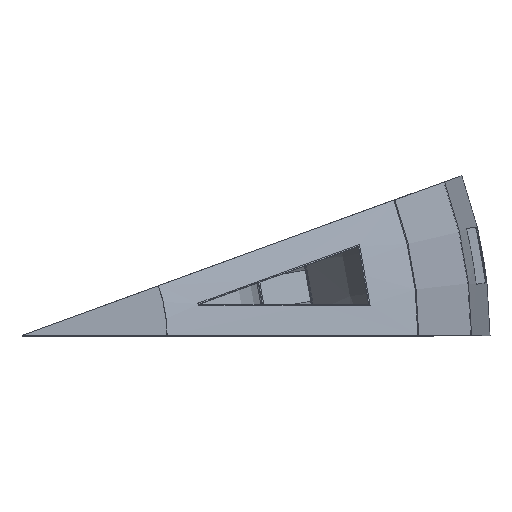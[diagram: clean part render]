
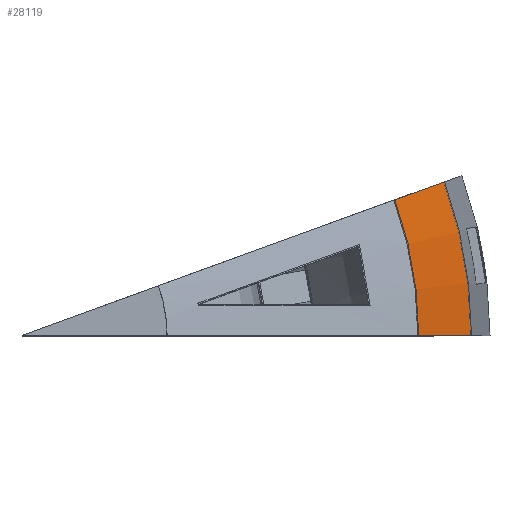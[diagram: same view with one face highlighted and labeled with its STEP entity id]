
A CAD part, top view. The second image highlights one B-rep face of the part: STEP entity #28119.
In plain terms, the highlighted conical face has half-angle 31.234 degrees and reference radius 17911.4 mm.
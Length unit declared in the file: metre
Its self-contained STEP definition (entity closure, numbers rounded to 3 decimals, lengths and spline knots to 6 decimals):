
#27114 = CONICAL_SURFACE('',#27115,15.701888,1.262);
#27115 = AXIS2_PLACEMENT_3D('',#27116,#27117,#27118);
#27116 = CARTESIAN_POINT('',(0.,0.,7.456557));
#27117 = DIRECTION('',(-0.,-0.,-1.));
#27118 = DIRECTION('',(1.,0.,-0.));
#27142 = PLANE('',#27143);
#27143 = AXIS2_PLACEMENT_3D('',#27144,#27145,#27146);
#27144 = CARTESIAN_POINT('',(6.893077,2.508875,
    -0.399461));
#27145 = DIRECTION('',(0.342,-0.94,-0.));
#27146 = DIRECTION('',(0.,0.,-1.));
#27168 = PLANE('',#27169);
#27169 = AXIS2_PLACEMENT_3D('',#27170,#27171,#27172);
#27170 = CARTESIAN_POINT('',(7.335459,0.,-0.399461));
#27171 = DIRECTION('',(-0.,-1.,-0.));
#27172 = DIRECTION('',(0.,0.,-1.));
#27183 = EDGE_CURVE('',#27184,#27186,#27188,.T.);
#27184 = VERTEX_POINT('',#27185);
#27185 = CARTESIAN_POINT('',(15.844768,0.,7.411051));
#27186 = VERTEX_POINT('',#27187);
#27187 = CARTESIAN_POINT('',(14.889211,5.41923,
    7.411051));
#27188 = SURFACE_CURVE('',#27189,(#27194,#27201),.PCURVE_S1.);
#27189 = CIRCLE('',#27190,15.844768);
#27190 = AXIS2_PLACEMENT_3D('',#27191,#27192,#27193);
#27191 = CARTESIAN_POINT('',(0.,0.,7.411051));
#27192 = DIRECTION('',(0.,0.,1.));
#27193 = DIRECTION('',(1.,0.,-0.));
#27194 = PCURVE('',#27114,#27195);
#27195 = DEFINITIONAL_REPRESENTATION('',(#27196),#27200);
#27196 = LINE('',#27197,#27198);
#27197 = CARTESIAN_POINT('',(0.,0.046));
#27198 = VECTOR('',#27199,1.);
#27199 = DIRECTION('',(-1.,-0.));
#27200 = ( GEOMETRIC_REPRESENTATION_CONTEXT(2) 
PARAMETRIC_REPRESENTATION_CONTEXT() REPRESENTATION_CONTEXT('2D SPACE',''
  ) );
#27201 = PCURVE('',#27202,#27207);
#27202 = CONICAL_SURFACE('',#27203,17.911421,0.545);
#27203 = AXIS2_PLACEMENT_3D('',#27204,#27205,#27206);
#27204 = CARTESIAN_POINT('',(0.,0.,4.003172));
#27205 = DIRECTION('',(-0.,-0.,-1.));
#27206 = DIRECTION('',(1.,0.,-0.));
#27207 = DEFINITIONAL_REPRESENTATION('',(#27208),#27212);
#27208 = LINE('',#27209,#27210);
#27209 = CARTESIAN_POINT('',(-0.,-3.408));
#27210 = VECTOR('',#27211,1.);
#27211 = DIRECTION('',(-1.,-0.));
#27212 = ( GEOMETRIC_REPRESENTATION_CONTEXT(2) 
PARAMETRIC_REPRESENTATION_CONTEXT() REPRESENTATION_CONTEXT('2D SPACE',''
  ) );
#27746 = VERTEX_POINT('',#27747);
#27747 = CARTESIAN_POINT('',(17.95505,0.,3.931228));
#27761 = CONICAL_SURFACE('',#27762,18.688661,0.13);
#27762 = AXIS2_PLACEMENT_3D('',#27763,#27764,#27765);
#27763 = CARTESIAN_POINT('',(0.,0.,-1.658888));
#27764 = DIRECTION('',(-0.,-0.,-1.));
#27765 = DIRECTION('',(1.,0.,-0.));
#27773 = EDGE_CURVE('',#27746,#27184,#27774,.T.);
#27774 = SURFACE_CURVE('',#27775,(#27779,#27786),.PCURVE_S1.);
#27775 = LINE('',#27776,#27777);
#27776 = CARTESIAN_POINT('',(17.911421,0.,4.003172));
#27777 = VECTOR('',#27778,1.);
#27778 = DIRECTION('',(-0.519,0.,0.855));
#27779 = PCURVE('',#27168,#27780);
#27780 = DEFINITIONAL_REPRESENTATION('',(#27781),#27785);
#27781 = LINE('',#27782,#27783);
#27782 = CARTESIAN_POINT('',(-4.403,10.576));
#27783 = VECTOR('',#27784,1.);
#27784 = DIRECTION('',(-0.855,-0.519));
#27785 = ( GEOMETRIC_REPRESENTATION_CONTEXT(2) 
PARAMETRIC_REPRESENTATION_CONTEXT() REPRESENTATION_CONTEXT('2D SPACE',''
  ) );
#27786 = PCURVE('',#27202,#27787);
#27787 = DEFINITIONAL_REPRESENTATION('',(#27788),#27792);
#27788 = LINE('',#27789,#27790);
#27789 = CARTESIAN_POINT('',(-0.,-0.));
#27790 = VECTOR('',#27791,1.);
#27791 = DIRECTION('',(-0.,-1.));
#27792 = ( GEOMETRIC_REPRESENTATION_CONTEXT(2) 
PARAMETRIC_REPRESENTATION_CONTEXT() REPRESENTATION_CONTEXT('2D SPACE',''
  ) );
#28076 = VERTEX_POINT('',#28077);
#28077 = CARTESIAN_POINT('',(16.872228,6.140989,
    3.931228));
#28098 = EDGE_CURVE('',#28076,#27186,#28099,.T.);
#28099 = SURFACE_CURVE('',#28100,(#28104,#28111),.PCURVE_S1.);
#28100 = LINE('',#28101,#28102);
#28101 = CARTESIAN_POINT('',(16.83123,6.126067,
    4.003172));
#28102 = VECTOR('',#28103,1.);
#28103 = DIRECTION('',(-0.487,-0.177,0.855));
#28104 = PCURVE('',#27142,#28105);
#28105 = DEFINITIONAL_REPRESENTATION('',(#28106),#28110);
#28106 = LINE('',#28107,#28108);
#28107 = CARTESIAN_POINT('',(-4.403,10.576));
#28108 = VECTOR('',#28109,1.);
#28109 = DIRECTION('',(-0.855,-0.519));
#28110 = ( GEOMETRIC_REPRESENTATION_CONTEXT(2) 
PARAMETRIC_REPRESENTATION_CONTEXT() REPRESENTATION_CONTEXT('2D SPACE',''
  ) );
#28111 = PCURVE('',#27202,#28112);
#28112 = DEFINITIONAL_REPRESENTATION('',(#28113),#28117);
#28113 = LINE('',#28114,#28115);
#28114 = CARTESIAN_POINT('',(-0.349,-0.));
#28115 = VECTOR('',#28116,1.);
#28116 = DIRECTION('',(-0.,-1.));
#28117 = ( GEOMETRIC_REPRESENTATION_CONTEXT(2) 
PARAMETRIC_REPRESENTATION_CONTEXT() REPRESENTATION_CONTEXT('2D SPACE',''
  ) );
#28119 = ADVANCED_FACE('',(#28120),#27202,.T.);
#28120 = FACE_BOUND('',#28121,.T.);
#28121 = EDGE_LOOP('',(#28122,#28144,#28145,#28146));
#28122 = ORIENTED_EDGE('',*,*,#28123,.T.);
#28123 = EDGE_CURVE('',#27746,#28076,#28124,.T.);
#28124 = SURFACE_CURVE('',#28125,(#28130,#28137),.PCURVE_S1.);
#28125 = CIRCLE('',#28126,17.95505);
#28126 = AXIS2_PLACEMENT_3D('',#28127,#28128,#28129);
#28127 = CARTESIAN_POINT('',(0.,0.,3.931228));
#28128 = DIRECTION('',(0.,0.,1.));
#28129 = DIRECTION('',(1.,0.,-0.));
#28130 = PCURVE('',#27202,#28131);
#28131 = DEFINITIONAL_REPRESENTATION('',(#28132),#28136);
#28132 = LINE('',#28133,#28134);
#28133 = CARTESIAN_POINT('',(0.,0.072));
#28134 = VECTOR('',#28135,1.);
#28135 = DIRECTION('',(-1.,-0.));
#28136 = ( GEOMETRIC_REPRESENTATION_CONTEXT(2) 
PARAMETRIC_REPRESENTATION_CONTEXT() REPRESENTATION_CONTEXT('2D SPACE',''
  ) );
#28137 = PCURVE('',#27761,#28138);
#28138 = DEFINITIONAL_REPRESENTATION('',(#28139),#28143);
#28139 = LINE('',#28140,#28141);
#28140 = CARTESIAN_POINT('',(-0.,-5.59));
#28141 = VECTOR('',#28142,1.);
#28142 = DIRECTION('',(-1.,-0.));
#28143 = ( GEOMETRIC_REPRESENTATION_CONTEXT(2) 
PARAMETRIC_REPRESENTATION_CONTEXT() REPRESENTATION_CONTEXT('2D SPACE',''
  ) );
#28144 = ORIENTED_EDGE('',*,*,#28098,.T.);
#28145 = ORIENTED_EDGE('',*,*,#27183,.F.);
#28146 = ORIENTED_EDGE('',*,*,#27773,.F.);
